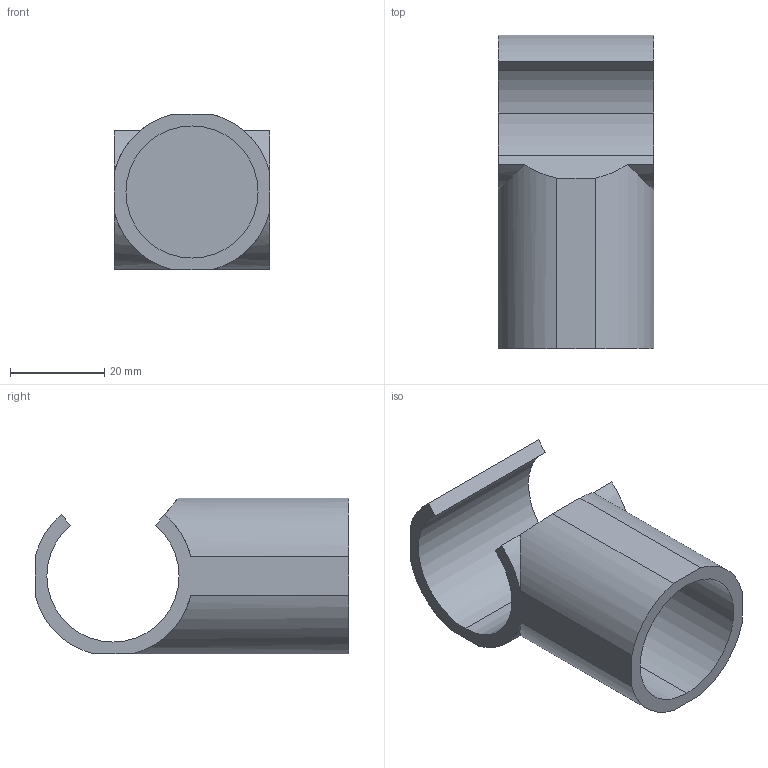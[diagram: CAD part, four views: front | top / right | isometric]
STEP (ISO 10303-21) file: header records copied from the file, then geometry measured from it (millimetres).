
FILE_DESCRIPTION (( 'STEP AP214' ), '1' );
FILE_NAME ('PJ-204C.STEP', '2023-09-12T11:03:00', ( 'catia' ), ( 'HP Inc.' ), 'SwSTEP 2.0', 'SolidWorks 2021', '' );
FILE_SCHEMA (( 'AUTOMOTIVE_DESIGN' ));
Length unit declared in the file: millimetre
Products named in the file (1): PJ-204C
Bounding box: 33 x 66.5 x 33 mm (x, y, z)
Volume: 20498.4 mm3; surface area: 12228.8 mm2
Topology: 1 solids, 1 shells, 23 faces, 60 edges, 40 vertices
Faces by surface type: cylinder 14, plane 9
Entity records: 748 total; most frequent: CARTESIAN_POINT 142, DIRECTION 122, ORIENTED_EDGE 120, EDGE_CURVE 60, AXIS2_PLACEMENT_3D 44, VERTEX_POINT 40, LINE 34, VECTOR 34
